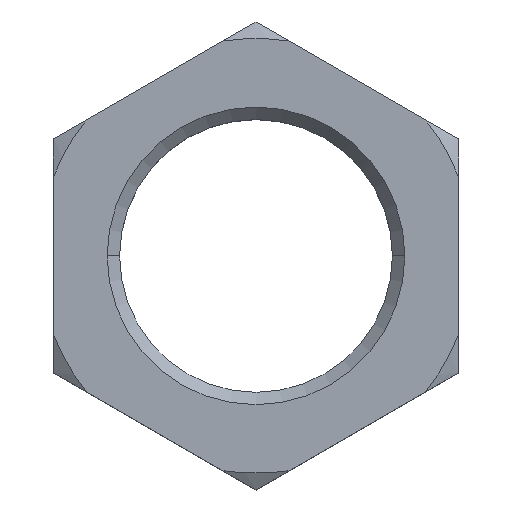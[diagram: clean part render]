
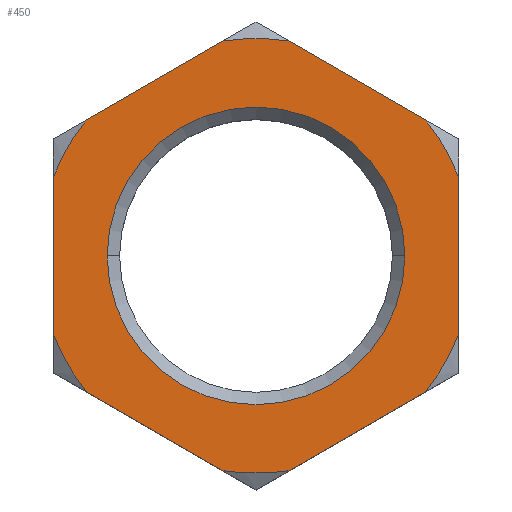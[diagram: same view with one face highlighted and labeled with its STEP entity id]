
A CAD part, top view. The second image highlights one B-rep face of the part: STEP entity #450.
In plain terms, the highlighted planar face has unit normal (0, 0, 1).
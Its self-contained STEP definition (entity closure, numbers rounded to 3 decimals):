
#1 = ORIENTED_EDGE ( 'NONE', *, *, #240, .T. ) ;
#3 = CIRCLE ( 'NONE', #784, 26.29 ) ;
#37 = ORIENTED_EDGE ( 'NONE', *, *, #857, .T. ) ;
#54 = CARTESIAN_POINT ( 'NONE',  ( 0., 0., 7.7 ) ) ;
#58 = CARTESIAN_POINT ( 'NONE',  ( 18., 0., 7.7 ) ) ;
#78 = LINE ( 'NONE', #91, #470 ) ;
#91 = CARTESIAN_POINT ( 'NONE',  ( 24.5, 14.145, 7.7 ) ) ;
#120 = CIRCLE ( 'NONE', #713, 26.29 ) ;
#125 = VERTEX_POINT ( 'NONE', #148 ) ;
#130 = DIRECTION ( 'NONE',  ( -1., 0., 0. ) ) ;
#142 = CARTESIAN_POINT ( 'NONE',  ( -20.508, -16.45, 7.7 ) ) ;
#148 = CARTESIAN_POINT ( 'NONE',  ( 3.992, 25.985, 7.7 ) ) ;
#179 = DIRECTION ( 'NONE',  ( 0., 0., -1. ) ) ;
#191 = AXIS2_PLACEMENT_3D ( 'NONE', #264, #682, #770 ) ;
#193 = DIRECTION ( 'NONE',  ( 1., 0., 0. ) ) ;
#194 = VERTEX_POINT ( 'NONE', #693 ) ;
#196 = CARTESIAN_POINT ( 'NONE',  ( 0., 0., 7.7 ) ) ;
#198 = DIRECTION ( 'NONE',  ( -1., 0., 0. ) ) ;
#200 = CARTESIAN_POINT ( 'NONE',  ( 20.508, -16.45, 7.7 ) ) ;
#205 = EDGE_CURVE ( 'NONE', #489, #125, #482, .T. ) ;
#216 = ORIENTED_EDGE ( 'NONE', *, *, #769, .F. ) ;
#224 = VERTEX_POINT ( 'NONE', #272 ) ;
#225 = EDGE_CURVE ( 'NONE', #514, #408, #120, .T. ) ;
#226 = CARTESIAN_POINT ( 'NONE',  ( 24.5, -9.535, 7.7 ) ) ;
#233 = ORIENTED_EDGE ( 'NONE', *, *, #914, .T. ) ;
#240 = EDGE_CURVE ( 'NONE', #194, #276, #517, .T. ) ;
#260 = DIRECTION ( 'NONE',  ( 0., 0., -1. ) ) ;
#264 = CARTESIAN_POINT ( 'NONE',  ( 0., 0., 7.7 ) ) ;
#272 = CARTESIAN_POINT ( 'NONE',  ( -3.992, -25.985, 7.7 ) ) ;
#273 = EDGE_CURVE ( 'NONE', #276, #194, #657, .T. ) ;
#276 = VERTEX_POINT ( 'NONE', #58 ) ;
#280 = DIRECTION ( 'NONE',  ( 0., 0., -1. ) ) ;
#285 = AXIS2_PLACEMENT_3D ( 'NONE', #761, #326, #403 ) ;
#289 = FACE_BOUND ( 'NONE', #643, .T. ) ;
#306 = ORIENTED_EDGE ( 'NONE', *, *, #273, .T. ) ;
#316 = ORIENTED_EDGE ( 'NONE', *, *, #387, .F. ) ;
#326 = DIRECTION ( 'NONE',  ( 0., 0., -1. ) ) ;
#331 = EDGE_CURVE ( 'NONE', #715, #875, #731, .T. ) ;
#332 = VECTOR ( 'NONE', #920, 1000. ) ;
#339 = CARTESIAN_POINT ( 'NONE',  ( 3.992, -25.985, 7.7 ) ) ;
#349 = DIRECTION ( 'NONE',  ( -1., 0., 0. ) ) ;
#375 = VECTOR ( 'NONE', #743, 1000. ) ;
#387 = EDGE_CURVE ( 'NONE', #589, #615, #557, .T. ) ;
#389 = LINE ( 'NONE', #776, #332 ) ;
#394 = VERTEX_POINT ( 'NONE', #200 ) ;
#397 = EDGE_CURVE ( 'NONE', #445, #224, #505, .T. ) ;
#399 = CARTESIAN_POINT ( 'NONE',  ( 0., 0., 7.7 ) ) ;
#403 = DIRECTION ( 'NONE',  ( -1., 0., 0. ) ) ;
#408 = VERTEX_POINT ( 'NONE', #554 ) ;
#409 = EDGE_LOOP ( 'NONE', ( #216, #706, #916, #917, #447, #233, #416, #622, #316, #37, #582, #778 ) ) ;
#416 = ORIENTED_EDGE ( 'NONE', *, *, #225, .F. ) ;
#417 = EDGE_CURVE ( 'NONE', #514, #615, #389, .T. ) ;
#445 = VERTEX_POINT ( 'NONE', #339 ) ;
#447 = ORIENTED_EDGE ( 'NONE', *, *, #205, .F. ) ;
#450 = ADVANCED_FACE ( 'NONE', ( #289, #744 ), #487, .T. ) ;
#452 = DIRECTION ( 'NONE',  ( 0.866, -0.5, 0. ) ) ;
#470 = VECTOR ( 'NONE', #883, 1000. ) ;
#480 = VECTOR ( 'NONE', #452, 1000. ) ;
#482 = CIRCLE ( 'NONE', #691, 26.29 ) ;
#487 = PLANE ( 'NONE',  #799 ) ;
#489 = VERTEX_POINT ( 'NONE', #710 ) ;
#494 = CARTESIAN_POINT ( 'NONE',  ( 0., 0., 7.7 ) ) ;
#505 = CIRCLE ( 'NONE', #763, 26.29 ) ;
#514 = VERTEX_POINT ( 'NONE', #870 ) ;
#516 = LINE ( 'NONE', #533, #375 ) ;
#517 = CIRCLE ( 'NONE', #640, 18. ) ;
#526 = DIRECTION ( 'NONE',  ( -1., 0., 0. ) ) ;
#529 = CARTESIAN_POINT ( 'NONE',  ( 24.5, 9.535, 7.7 ) ) ;
#533 = CARTESIAN_POINT ( 'NONE',  ( 24.5, -14.145, 7.7 ) ) ;
#554 = CARTESIAN_POINT ( 'NONE',  ( -20.508, 16.45, 7.7 ) ) ;
#557 = CIRCLE ( 'NONE', #659, 26.29 ) ;
#569 = CARTESIAN_POINT ( 'NONE',  ( -24.5, -9.535, 7.7 ) ) ;
#573 = VERTEX_POINT ( 'NONE', #226 ) ;
#581 = DIRECTION ( 'NONE',  ( 0.866, 0.5, 0. ) ) ;
#582 = ORIENTED_EDGE ( 'NONE', *, *, #397, .F. ) ;
#583 = CARTESIAN_POINT ( 'NONE',  ( 20.508, 16.45, 7.7 ) ) ;
#589 = VERTEX_POINT ( 'NONE', #142 ) ;
#600 = DIRECTION ( 'NONE',  ( -1., 0., 0. ) ) ;
#615 = VERTEX_POINT ( 'NONE', #569 ) ;
#616 = VECTOR ( 'NONE', #581, 1000. ) ;
#621 = DIRECTION ( 'NONE',  ( 0., 0., 1. ) ) ;
#622 = ORIENTED_EDGE ( 'NONE', *, *, #417, .T. ) ;
#623 = DIRECTION ( 'NONE',  ( 1., 0., 0. ) ) ;
#635 = VECTOR ( 'NONE', #811, 1000. ) ;
#640 = AXIS2_PLACEMENT_3D ( 'NONE', #54, #913, #193 ) ;
#643 = EDGE_LOOP ( 'NONE', ( #306, #1 ) ) ;
#657 = CIRCLE ( 'NONE', #191, 18. ) ;
#659 = AXIS2_PLACEMENT_3D ( 'NONE', #696, #280, #130 ) ;
#664 = CARTESIAN_POINT ( 'NONE',  ( -24.5, -14.145, 7.7 ) ) ;
#665 = EDGE_CURVE ( 'NONE', #715, #125, #78, .T. ) ;
#682 = DIRECTION ( 'NONE',  ( 0., 0., -1. ) ) ;
#691 = AXIS2_PLACEMENT_3D ( 'NONE', #399, #260, #600 ) ;
#693 = CARTESIAN_POINT ( 'NONE',  ( -18., 0., 7.7 ) ) ;
#696 = CARTESIAN_POINT ( 'NONE',  ( 0., 0., 7.7 ) ) ;
#701 = DIRECTION ( 'NONE',  ( 0., 0., -1. ) ) ;
#706 = ORIENTED_EDGE ( 'NONE', *, *, #821, .T. ) ;
#710 = CARTESIAN_POINT ( 'NONE',  ( -3.992, 25.985, 7.7 ) ) ;
#713 = AXIS2_PLACEMENT_3D ( 'NONE', #196, #179, #198 ) ;
#715 = VERTEX_POINT ( 'NONE', #583 ) ;
#731 = CIRCLE ( 'NONE', #285, 26.29 ) ;
#743 = DIRECTION ( 'NONE',  ( 0., 1., 0. ) ) ;
#744 = FACE_OUTER_BOUND ( 'NONE', #409, .T. ) ;
#761 = CARTESIAN_POINT ( 'NONE',  ( 0., 0., 7.7 ) ) ;
#763 = AXIS2_PLACEMENT_3D ( 'NONE', #494, #701, #349 ) ;
#767 = LINE ( 'NONE', #664, #480 ) ;
#769 = EDGE_CURVE ( 'NONE', #573, #394, #3, .T. ) ;
#770 = DIRECTION ( 'NONE',  ( 1., 0., 0. ) ) ;
#776 = CARTESIAN_POINT ( 'NONE',  ( -24.5, 14.145, 7.7 ) ) ;
#778 = ORIENTED_EDGE ( 'NONE', *, *, #922, .T. ) ;
#784 = AXIS2_PLACEMENT_3D ( 'NONE', #819, #893, #526 ) ;
#799 = AXIS2_PLACEMENT_3D ( 'NONE', #861, #621, #623 ) ;
#806 = CARTESIAN_POINT ( 'NONE',  ( 0., -28.29, 7.7 ) ) ;
#811 = DIRECTION ( 'NONE',  ( -0.866, -0.5, 0. ) ) ;
#819 = CARTESIAN_POINT ( 'NONE',  ( 0., 0., 7.7 ) ) ;
#821 = EDGE_CURVE ( 'NONE', #573, #875, #516, .T. ) ;
#843 = LINE ( 'NONE', #878, #635 ) ;
#854 = LINE ( 'NONE', #806, #616 ) ;
#857 = EDGE_CURVE ( 'NONE', #589, #224, #767, .T. ) ;
#861 = CARTESIAN_POINT ( 'NONE',  ( 0., 0., 7.7 ) ) ;
#870 = CARTESIAN_POINT ( 'NONE',  ( -24.5, 9.535, 7.7 ) ) ;
#875 = VERTEX_POINT ( 'NONE', #529 ) ;
#878 = CARTESIAN_POINT ( 'NONE',  ( 0., 28.29, 7.7 ) ) ;
#883 = DIRECTION ( 'NONE',  ( -0.866, 0.5, 0. ) ) ;
#893 = DIRECTION ( 'NONE',  ( 0., 0., -1. ) ) ;
#913 = DIRECTION ( 'NONE',  ( 0., 0., -1. ) ) ;
#914 = EDGE_CURVE ( 'NONE', #489, #408, #843, .T. ) ;
#916 = ORIENTED_EDGE ( 'NONE', *, *, #331, .F. ) ;
#917 = ORIENTED_EDGE ( 'NONE', *, *, #665, .T. ) ;
#920 = DIRECTION ( 'NONE',  ( 0., -1., 0. ) ) ;
#922 = EDGE_CURVE ( 'NONE', #445, #394, #854, .T. ) ;
